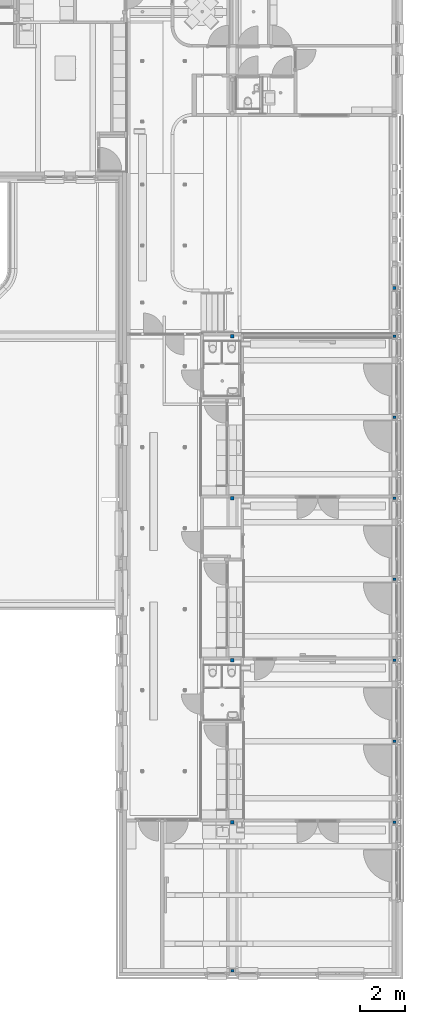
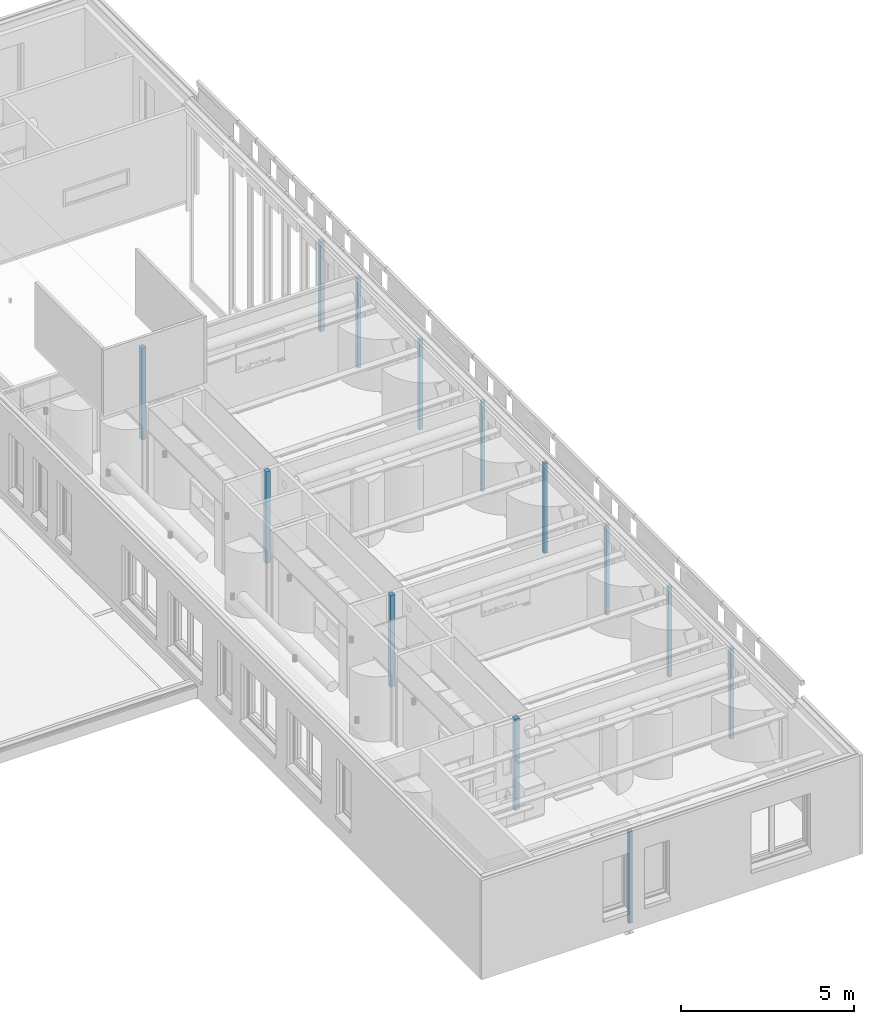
# One storey, part 1 of 128: 14 columns.
"""IFC2X3 building model written with IfcOpenShell, lengths in millimetres."""

from ifc_helpers import new_model, entity, si_unit, converted_unit, derived_unit, direction, frame, frame_2d, origin, place, context, subcontext, project, spatial, polyline, circle_curve, parameter, trimmed, segment, composite_curve, outline, extrude, source, transform, mapped, material, material_list, type_object, type_shapes, element, save


model = new_model("IFC2X3")

# Units and contexts
model_context = context("Model", 3, precision=0.01, world=origin(), true_north=direction((6.123031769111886e-17, 1.0)))
body_context = subcontext(model_context, "Body", "Model", "MODEL_VIEW")
ifc_project = project(units=[si_unit("LENGTHUNIT", "METRE", prefix="MILLI"), si_unit("AREAUNIT", "SQUARE_METRE"), si_unit("VOLUMEUNIT", "CUBIC_METRE"), converted_unit("PLANEANGLEUNIT", "DEGREE", entity("IfcRatioMeasure", 0.017453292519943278), si_unit("PLANEANGLEUNIT", "RADIAN"), dimensions=[0, 0, 0, 0, 0, 0, 0]), si_unit("MASSUNIT", "GRAM", prefix="KILO"), derived_unit("MASSDENSITYUNIT", [(si_unit("MASSUNIT", "GRAM", prefix="KILO"), 1), (si_unit("LENGTHUNIT", "METRE"), -3)]), derived_unit("IONCONCENTRATIONUNIT", [(si_unit("MASSUNIT", "GRAM", prefix="KILO"), 1), (si_unit("LENGTHUNIT", "METRE"), -3)]), derived_unit("MOMENTOFINERTIAUNIT", [(si_unit("LENGTHUNIT", "METRE"), 4)]), si_unit("TIMEUNIT", "SECOND"), si_unit("FREQUENCYUNIT", "HERTZ"), si_unit("THERMODYNAMICTEMPERATUREUNIT", "DEGREE_CELSIUS"), derived_unit("THERMALTRANSMITTANCEUNIT", [(si_unit("MASSUNIT", "GRAM", prefix="KILO"), 1), (si_unit("THERMODYNAMICTEMPERATUREUNIT", "KELVIN"), -1), (si_unit("TIMEUNIT", "SECOND"), -3)]), derived_unit("THERMALCONDUCTANCEUNIT", [(si_unit("MASSUNIT", "GRAM", prefix="KILO"), 1), (si_unit("THERMODYNAMICTEMPERATUREUNIT", "KELVIN"), -1), (si_unit("TIMEUNIT", "SECOND"), -3), (si_unit("LENGTHUNIT", "METRE"), 1)]), derived_unit("VOLUMETRICFLOWRATEUNIT", [(si_unit("LENGTHUNIT", "METRE"), 3), (si_unit("TIMEUNIT", "SECOND"), -1)]), derived_unit("MASSFLOWRATEUNIT", [(si_unit("MASSUNIT", "GRAM", prefix="KILO"), 1), (si_unit("TIMEUNIT", "SECOND"), -1)]), derived_unit("ROTATIONALFREQUENCYUNIT", [(si_unit("TIMEUNIT", "SECOND"), -1)]), si_unit("ELECTRICCURRENTUNIT", "AMPERE"), si_unit("ELECTRICVOLTAGEUNIT", "VOLT"), si_unit("POWERUNIT", "WATT"), si_unit("FORCEUNIT", "NEWTON", prefix="KILO"), si_unit("ILLUMINANCEUNIT", "LUX"), si_unit("LUMINOUSFLUXUNIT", "LUMEN"), si_unit("LUMINOUSINTENSITYUNIT", "CANDELA"), derived_unit("USERDEFINED", [(si_unit("MASSUNIT", "GRAM", prefix="KILO"), -1), (si_unit("LENGTHUNIT", "METRE"), -2), (si_unit("TIMEUNIT", "SECOND"), 3), (si_unit("LUMINOUSFLUXUNIT", "LUMEN"), 1)]), derived_unit("USERDEFINED", [(si_unit("MASSUNIT", "GRAM", prefix="KILO"), 1), (si_unit("TIMEUNIT", "SECOND"), -3), (si_unit("LENGTHUNIT", "METRE"), 3), (si_unit("ELECTRICCURRENTUNIT", "AMPERE"), -2)]), derived_unit("SOUNDPOWERUNIT", [(si_unit("MASSUNIT", "GRAM", prefix="KILO"), 1), (si_unit("TIMEUNIT", "SECOND"), -3), (si_unit("LENGTHUNIT", "METRE"), 2)]), derived_unit("SOUNDPRESSUREUNIT", [(si_unit("MASSUNIT", "GRAM", prefix="KILO"), 1), (si_unit("LENGTHUNIT", "METRE"), -1), (si_unit("TIMEUNIT", "SECOND"), -2)]), derived_unit("LINEARVELOCITYUNIT", [(si_unit("LENGTHUNIT", "METRE"), 1), (si_unit("TIMEUNIT", "SECOND"), -1)]), si_unit("PRESSUREUNIT", "PASCAL"), derived_unit("USERDEFINED", [(si_unit("MASSUNIT", "GRAM", prefix="KILO"), 1), (si_unit("LENGTHUNIT", "METRE"), -2), (si_unit("TIMEUNIT", "SECOND"), -2)]), derived_unit("LINEARFORCEUNIT", [(si_unit("MASSUNIT", "GRAM", prefix="KILO"), 1), (si_unit("TIMEUNIT", "SECOND"), -2)]), derived_unit("PLANARFORCEUNIT", [(si_unit("MASSUNIT", "GRAM", prefix="KILO"), 1), (si_unit("LENGTHUNIT", "METRE"), -1), (si_unit("TIMEUNIT", "SECOND"), -2)]), derived_unit("SPECIFICHEATCAPACITYUNIT", [(si_unit("THERMODYNAMICTEMPERATUREUNIT", "KELVIN"), -1), (si_unit("LENGTHUNIT", "METRE"), 2), (si_unit("TIMEUNIT", "SECOND"), -2)]), derived_unit("HEATINGVALUEUNIT", [(si_unit("LENGTHUNIT", "METRE"), 2), (si_unit("TIMEUNIT", "SECOND"), -2)]), derived_unit("VAPORPERMEABILITYUNIT", [(si_unit("LENGTHUNIT", "METRE"), -1), (si_unit("TIMEUNIT", "SECOND"), 1)]), derived_unit("DYNAMICVISCOSITYUNIT", [(si_unit("MASSUNIT", "GRAM", prefix="KILO"), 1), (si_unit("TIMEUNIT", "SECOND"), -1), (si_unit("LENGTHUNIT", "METRE"), -1)]), derived_unit("THERMALEXPANSIONCOEFFICIENTUNIT", [(si_unit("THERMODYNAMICTEMPERATUREUNIT", "KELVIN"), -1)]), derived_unit("MODULUSOFELASTICITYUNIT", [(si_unit("MASSUNIT", "GRAM", prefix="KILO"), 1), (si_unit("LENGTHUNIT", "METRE"), -1), (si_unit("TIMEUNIT", "SECOND"), -2)]), derived_unit("ISOTHERMALMOISTURECAPACITYUNIT", [(si_unit("LENGTHUNIT", "METRE"), 3), (si_unit("MASSUNIT", "GRAM", prefix="KILO"), -1)]), derived_unit("MOISTUREDIFFUSIVITYUNIT", [(si_unit("TIMEUNIT", "SECOND"), -1), (si_unit("LENGTHUNIT", "METRE"), 2)])], contexts=[model_context])

# Site, building, storey
site_placement = place(None, frame((0.0, 300.0, 0.0)))
site = spatial("IfcSite", under=ifc_project, at=site_placement, Name="<Kadastrale nummers>", CompositionType="ELEMENT")
building_placement = place(site_placement, origin())
building = spatial("IfcBuilding", under=site, at=building_placement, CompositionType="ELEMENT")
storey_placement = place(building_placement, frame((0.0, 0.0, 3560.0000331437)))
storey = spatial("IfcBuildingStorey", under=building, at=storey_placement, Name="01 eerste verdieping", CompositionType="ELEMENT", Elevation=3560.0000331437)

# Columns
ifc_material_1 = material(Name="f2_beton")
ifc_material_2 = material(Name="h2_staal")
ifc_material_list = material_list([ifc_material_1, ifc_material_2])
column_type_1 = type_object("IfcColumnType", Name="NLRS_28_SCO_TLB_kolom koker betongevuld_gen_ASN:kolom betongevuld K120x120x5", PredefinedType="COLUMN", material=ifc_material_list)
shared_shape_1 = source(origin(), body_context, "Body", "SweptSolid", [
    extrude(outline(composite_curve([segment(polyline([(-50.0, -55.0), (50.0, -55.0)]), True, "CONTINUOUS"), segment(trimmed(circle_curve(frame_2d((50.0, -50.0), x_axis=(-1.0, 0.0)), 4.999999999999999), [parameter(90.00000000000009)], [parameter(179.9999999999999)], True, "PARAMETER"), True, "CONTINUOUS"), segment(polyline([(55.0, -50.0), (55.0, 50.0)]), True, "CONTINUOUS"), segment(trimmed(circle_curve(frame_2d((50.0, 50.0), x_axis=(-1.0, 0.0)), 4.999999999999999), [parameter(180.0000000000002)], [parameter(269.9999999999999)], True, "PARAMETER"), True, "CONTINUOUS"), segment(polyline([(50.0, 55.0), (-50.0, 55.0)]), True, "CONTINUOUS"), segment(trimmed(circle_curve(frame_2d((-50.0, 50.0), x_axis=(-1.0, 0.0)), 4.999999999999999), [parameter(269.99999999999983)], [parameter(359.9999999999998)], True, "PARAMETER"), True, "CONTINUOUS"), segment(polyline([(-55.0, 50.0), (-55.0, -50.0)]), True, "CONTINUOUS"), segment(trimmed(circle_curve(frame_2d((-50.0, -50.0), x_axis=(-1.0, 0.0)), 4.999999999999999), [parameter(0.0)], [parameter(89.99999999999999)], True, "PARAMETER"), True, "CONTINUOUS")], self_intersect=False)), frame((0.0, 0.0, 3650.0000350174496), z_axis=(0.0, 0.0, 1.0), x_axis=(-1.0, 0.0, 0.0)), (0.0, 0.0, 1.0), 3180.00002051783),
    extrude(outline(composite_curve([segment(trimmed(circle_curve(frame_2d((51.0, 51.0), x_axis=(1.0, 0.0)), 9.0), [parameter(359.9999999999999)], [parameter(89.99999999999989)], True, "PARAMETER"), True, "CONTINUOUS"), segment(polyline([(51.0, 60.0), (-51.0, 60.0)]), True, "CONTINUOUS"), segment(trimmed(circle_curve(frame_2d((-51.0, 51.0), x_axis=(1.0, 0.0)), 9.0), [parameter(90.00000000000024)], [parameter(180.0000000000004)], True, "PARAMETER"), True, "CONTINUOUS"), segment(polyline([(-60.0, 51.0), (-60.0, -51.0)]), True, "CONTINUOUS"), segment(trimmed(circle_curve(frame_2d((-51.0, -51.0), x_axis=(1.0, 0.0)), 9.0), [parameter(179.99999999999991)], [parameter(269.9999999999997)], True, "PARAMETER"), True, "CONTINUOUS"), segment(polyline([(-51.0, -60.0), (51.0, -60.0)]), True, "CONTINUOUS"), segment(trimmed(circle_curve(frame_2d((51.0, -51.0), x_axis=(1.0, 0.0)), 9.0), [parameter(270.00000000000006)], [parameter(2.544443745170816e-13)], True, "PARAMETER"), True, "CONTINUOUS"), segment(polyline([(60.0, -51.0), (60.0, 51.0)]), True, "CONTINUOUS")], self_intersect=False), holes=[composite_curve([segment(polyline([(-51.0, 55.0), (51.0, 55.0)]), True, "CONTINUOUS"), segment(trimmed(circle_curve(frame_2d((51.0, 51.0), x_axis=(1.0, 0.0)), 4.0), [parameter(359.9999999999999)], [parameter(90.00000000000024)], True, "PARAMETER"), False, "CONTINUOUS"), segment(polyline([(55.0, 51.0), (55.0, -51.0)]), True, "CONTINUOUS"), segment(trimmed(circle_curve(frame_2d((51.0, -51.0), x_axis=(1.0, 0.0)), 4.0), [parameter(269.9999999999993)], [parameter(359.9999999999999)], True, "PARAMETER"), False, "CONTINUOUS"), segment(polyline([(51.0, -55.0), (-51.0, -55.0)]), True, "CONTINUOUS"), segment(trimmed(circle_curve(frame_2d((-51.0, -51.0), x_axis=(1.0, 0.0)), 4.0), [parameter(179.99999999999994)], [parameter(269.99999999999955)], True, "PARAMETER"), False, "CONTINUOUS"), segment(polyline([(-55.0, -51.0), (-55.0, 51.0)]), True, "CONTINUOUS"), segment(trimmed(circle_curve(frame_2d((-51.0, 51.0), x_axis=(1.0, 0.0)), 4.0), [parameter(89.99999999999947)], [parameter(179.9999999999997)], True, "PARAMETER"), False, "CONTINUOUS")], self_intersect=False)]), frame((0.0, 0.0, 3650.0000350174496), z_axis=(0.0, 0.0, 1.0), x_axis=(-1.0, 0.0, 0.0)), (0.0, 0.0, 1.0), 3180.00002051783),
])
type_shapes(column_type_1, [shared_shape_1])
for number, where, z_axis, x_axis, name in (
    (1, (48600.0, 23700.0, -3560.0000331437), (0.0, 0.0, 1.0), (0.0, -1.0, 0.0), "NLRS_28_SCO_TLB_kolom koker betongevuld_gen_ASN:kolom betongevuld K120x120x5"),
    (2, (48600.0, 16500.0, -3560.0000331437), (0.0, 0.0, 1.0), (0.0, -1.0, 0.0), "NLRS_28_SCO_TLB_kolom koker betongevuld_gen_ASN:kolom betongevuld K120x120x5"),
    (3, (48600.0, 9300.0, -3560.0000331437), (0.0, 0.0, 1.0), (0.0, -1.0, 0.0), "NLRS_28_SCO_TLB_kolom koker betongevuld_gen_ASN:kolom betongevuld K120x120x5"),
    (4, (48600.0, 12900.0, -3560.0000331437), (0.0, 0.0, 1.0), (0.0, -1.0, 0.0), "NLRS_28_SCO_TLB_kolom koker betongevuld_gen_ASN:kolom betongevuld K120x120x5"),
    (5, (48600.0, 30900.0, -3560.0000331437), (0.0, 0.0, 1.0), (0.0, -1.0, 0.0), "NLRS_28_SCO_TLB_kolom koker betongevuld_gen_ASN:kolom betongevuld K120x120x5"),
    (6, (48600.0, 27300.0, -3560.0000331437), (0.0, 0.0, 1.0), (0.0, -1.0, 0.0), "NLRS_28_SCO_TLB_kolom koker betongevuld_gen_ASN:kolom betongevuld K120x120x5"),
    (7, (48600.0, 20100.0, -3560.0000331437), (0.0, 0.0, 1.0), (0.0, -1.0, 0.0), "NLRS_28_SCO_TLB_kolom koker betongevuld_gen_ASN:kolom betongevuld K120x120x5"),
):
    element("IfcColumn", number, at=place(storey_placement, frame(where, z_axis=z_axis, x_axis=x_axis)), inside=storey, type_object=column_type_1, material=ifc_material_list, Name=name, ObjectType="NLRS_28_SCO_TLB_kolom koker betongevuld_gen_ASN:kolom betongevuld K120x120x5", context=body_context, shape_type="MappedRepresentation", body=[
        mapped(shared_shape_1, transform((0.0, 0.0, 0.0), scale=1.0)),
    ])
column_type_2 = type_object("IfcColumnType", Name="NLRS_28_SCO_TLB_kolom koker betongevuld_gen_ASN:kolom betongevuld K150x150x6.3", PredefinedType="COLUMN", material=ifc_material_list)
shared_shape_2 = source(origin(), body_context, "Body", "SweptSolid", [
    extrude(outline(composite_curve([segment(polyline([(-63.70000000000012, -68.69999999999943), (63.699999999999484, -68.69999999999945)]), True, "CONTINUOUS"), segment(trimmed(circle_curve(frame_2d((63.69999999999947, -63.69999999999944), x_axis=(-1.0, 0.0)), 4.999999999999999), [parameter(90.00000000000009)], [parameter(179.9999999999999)], True, "PARAMETER"), True, "CONTINUOUS"), segment(polyline([(68.69999999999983, -63.69999999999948), (68.7000000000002, 63.69999999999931)]), True, "CONTINUOUS"), segment(trimmed(circle_curve(frame_2d((63.70000000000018, 63.69999999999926), x_axis=(-1.0, 0.0)), 4.999999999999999), [parameter(180.0000000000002)], [parameter(269.9999999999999)], True, "PARAMETER"), True, "CONTINUOUS"), segment(polyline([(63.70000000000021, 68.69999999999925), (-63.6999999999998, 68.69999999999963)]), True, "CONTINUOUS"), segment(trimmed(circle_curve(frame_2d((-63.69999999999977, 63.699999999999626), x_axis=(-1.0, 0.0)), 4.999999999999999), [parameter(270.0)], [parameter(359.9999999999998)], True, "PARAMETER"), True, "CONTINUOUS"), segment(polyline([(-68.69999999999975, 63.69999999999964), (-68.70000000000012, -63.69999999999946)]), True, "CONTINUOUS"), segment(trimmed(circle_curve(frame_2d((-63.70000000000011, -63.69999999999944), x_axis=(-1.0, 0.0)), 4.999999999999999), [parameter(0.0)], [parameter(90.00000000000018)], True, "PARAMETER"), True, "CONTINUOUS")], self_intersect=False)), frame((0.0, 0.0, 3650.0000350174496), z_axis=(0.0, 0.0, 1.0), x_axis=(-1.0, 0.0, 0.0)), (0.0, 0.0, 1.0), 3180.00002051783),
    extrude(outline(composite_curve([segment(trimmed(circle_curve(frame_2d((62.0, 62.0), x_axis=(1.0, 0.0)), 13.000000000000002), [parameter(359.9999999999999)], [parameter(89.99999999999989)], True, "PARAMETER"), True, "CONTINUOUS"), segment(polyline([(62.0, 75.0), (-62.0, 75.0)]), True, "CONTINUOUS"), segment(trimmed(circle_curve(frame_2d((-62.0, 62.0), x_axis=(1.0, 0.0)), 13.000000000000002), [parameter(90.00000000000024)], [parameter(180.0000000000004)], True, "PARAMETER"), True, "CONTINUOUS"), segment(polyline([(-75.0, 62.0), (-75.0, -62.0)]), True, "CONTINUOUS"), segment(trimmed(circle_curve(frame_2d((-62.0, -62.0), x_axis=(1.0, 0.0)), 13.000000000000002), [parameter(180.0)], [parameter(269.9999999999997)], True, "PARAMETER"), True, "CONTINUOUS"), segment(polyline([(-62.0, -75.0), (62.0, -75.0)]), True, "CONTINUOUS"), segment(trimmed(circle_curve(frame_2d((62.0, -62.0), x_axis=(1.0, 0.0)), 13.000000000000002), [parameter(270.00000000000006)], [parameter(3.053332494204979e-13)], True, "PARAMETER"), True, "CONTINUOUS"), segment(polyline([(75.0, -62.0), (75.0, 62.0)]), True, "CONTINUOUS")], self_intersect=False), holes=[composite_curve([segment(polyline([(-62.0, 68.69999999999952), (62.0, 68.69999999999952)]), True, "CONTINUOUS"), segment(trimmed(circle_curve(frame_2d((62.0, 62.0), x_axis=(1.0, 0.0)), 6.700000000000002), [parameter(359.99999999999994)], [parameter(90.00000000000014)], True, "PARAMETER"), False, "CONTINUOUS"), segment(polyline([(68.69999999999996, 62.0), (68.69999999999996, -62.0)]), True, "CONTINUOUS"), segment(trimmed(circle_curve(frame_2d((62.0, -62.0), x_axis=(1.0, 0.0)), 6.700000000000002), [parameter(269.9999999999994)], [parameter(359.9999999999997)], True, "PARAMETER"), False, "CONTINUOUS"), segment(polyline([(62.0, -68.69999999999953), (-62.0, -68.69999999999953)]), True, "CONTINUOUS"), segment(trimmed(circle_curve(frame_2d((-62.0, -62.0), x_axis=(1.0, 0.0)), 6.700000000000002), [parameter(180.00000000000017)], [parameter(269.9999999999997)], True, "PARAMETER"), False, "CONTINUOUS"), segment(polyline([(-68.69999999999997, -62.0), (-68.69999999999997, 62.0)]), True, "CONTINUOUS"), segment(trimmed(circle_curve(frame_2d((-62.0, 62.0), x_axis=(1.0, 0.0)), 6.700000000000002), [parameter(89.99999999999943)], [parameter(179.99999999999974)], True, "PARAMETER"), False, "CONTINUOUS")], self_intersect=False)]), frame((0.0, 0.0, 3650.0000350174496), z_axis=(0.0, 0.0, 1.0), x_axis=(-1.0, 0.0, 0.0)), (0.0, 0.0, 1.0), 3180.00002051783),
])
type_shapes(column_type_2, [shared_shape_2])
column_1_placement = place(storey_placement, frame((48600.0, 33040.0, -3560.0000331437), z_axis=(0.0, 0.0, 1.0), x_axis=(0.0, -1.0, 0.0)))
element("IfcColumn", 8, at=column_1_placement, inside=storey, type_object=column_type_2, material=ifc_material_list, Name="NLRS_28_SCO_TLB_kolom koker betongevuld_gen_ASN:kolom betongevuld K150x150x6.3", ObjectType="NLRS_28_SCO_TLB_kolom koker betongevuld_gen_ASN:kolom betongevuld K150x150x6.3", context=body_context, shape_type="MappedRepresentation", body=[
    mapped(shared_shape_2, transform((0.0, 0.0, 0.0), scale=1.0)),
])
column_type_3 = type_object("IfcColumnType", Name="NLRS_28_SCO_TLB_kolom koker betongevuld_gen_ASN:kolom betongevuld K120x120x6.3", PredefinedType="COLUMN", material=ifc_material_list)
shared_shape_3 = source(origin(), body_context, "Body", "SweptSolid", [
    extrude(outline(composite_curve([segment(polyline([(-48.700000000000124, -53.69999999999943), (48.69999999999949, -53.69999999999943)]), True, "CONTINUOUS"), segment(trimmed(circle_curve(frame_2d((48.69999999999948, -48.69999999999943), x_axis=(-1.0, 0.0)), 4.999999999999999), [parameter(90.00000000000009)], [parameter(179.9999999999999)], True, "PARAMETER"), True, "CONTINUOUS"), segment(polyline([(53.699999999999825, -48.69999999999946), (53.70000000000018, 48.699999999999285)]), True, "CONTINUOUS"), segment(trimmed(circle_curve(frame_2d((48.70000000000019, 48.69999999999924), x_axis=(-1.0, 0.0)), 4.999999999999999), [parameter(180.0000000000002)], [parameter(269.9999999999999)], True, "PARAMETER"), True, "CONTINUOUS"), segment(polyline([(48.700000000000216, 53.699999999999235), (-48.699999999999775, 53.69999999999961)]), True, "CONTINUOUS"), segment(trimmed(circle_curve(frame_2d((-48.69999999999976, 48.69999999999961), x_axis=(-1.0, 0.0)), 4.999999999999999), [parameter(269.9999999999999)], [parameter(0.0)], True, "PARAMETER"), True, "CONTINUOUS"), segment(polyline([(-53.69999999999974, 48.69999999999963), (-53.700000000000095, -48.69999999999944)]), True, "CONTINUOUS"), segment(trimmed(circle_curve(frame_2d((-48.7000000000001, -48.69999999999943), x_axis=(-1.0, 0.0)), 4.999999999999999), [parameter(0.0)], [parameter(90.00000000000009)], True, "PARAMETER"), True, "CONTINUOUS")], self_intersect=False)), frame((0.0, 0.0, 3650.0000350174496), z_axis=(0.0, 0.0, 1.0), x_axis=(-1.0, 0.0, 0.0)), (0.0, 0.0, 1.0), 3240.000000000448),
    extrude(outline(composite_curve([segment(trimmed(circle_curve(frame_2d((51.0, 51.0), x_axis=(1.0, 0.0)), 9.0), [parameter(359.9999999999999)], [parameter(89.99999999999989)], True, "PARAMETER"), True, "CONTINUOUS"), segment(polyline([(51.0, 60.0), (-51.0, 60.0)]), True, "CONTINUOUS"), segment(trimmed(circle_curve(frame_2d((-51.0, 51.0), x_axis=(1.0, 0.0)), 9.0), [parameter(90.00000000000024)], [parameter(180.0000000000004)], True, "PARAMETER"), True, "CONTINUOUS"), segment(polyline([(-60.0, 51.0), (-60.0, -51.0)]), True, "CONTINUOUS"), segment(trimmed(circle_curve(frame_2d((-51.0, -51.0), x_axis=(1.0, 0.0)), 9.0), [parameter(179.99999999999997)], [parameter(269.9999999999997)], True, "PARAMETER"), True, "CONTINUOUS"), segment(polyline([(-51.0, -60.0), (51.0, -60.0)]), True, "CONTINUOUS"), segment(trimmed(circle_curve(frame_2d((51.0, -51.0), x_axis=(1.0, 0.0)), 9.0), [parameter(270.00000000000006)], [parameter(3.053332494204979e-13)], True, "PARAMETER"), True, "CONTINUOUS"), segment(polyline([(60.0, -51.0), (60.0, 51.0)]), True, "CONTINUOUS")], self_intersect=False), holes=[composite_curve([segment(polyline([(-51.0, 53.699999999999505), (51.0, 53.699999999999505)]), True, "CONTINUOUS"), segment(trimmed(circle_curve(frame_2d((51.0, 51.0), x_axis=(1.0, 0.0)), 2.7000000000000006), [parameter(359.9999999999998)], [parameter(90.00000000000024)], True, "PARAMETER"), False, "CONTINUOUS"), segment(polyline([(53.69999999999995, 51.0), (53.69999999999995, -51.0)]), True, "CONTINUOUS"), segment(trimmed(circle_curve(frame_2d((51.0, -51.0), x_axis=(1.0, 0.0)), 2.7000000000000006), [parameter(269.9999999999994)], [parameter(359.9999999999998)], True, "PARAMETER"), False, "CONTINUOUS"), segment(polyline([(51.0, -53.69999999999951), (-51.0, -53.69999999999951)]), True, "CONTINUOUS"), segment(trimmed(circle_curve(frame_2d((-51.0, -51.0), x_axis=(1.0, 0.0)), 2.7000000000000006), [parameter(180.0)], [parameter(269.9999999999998)], True, "PARAMETER"), False, "CONTINUOUS"), segment(polyline([(-53.699999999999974, -51.0), (-53.699999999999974, 51.0)]), True, "CONTINUOUS"), segment(trimmed(circle_curve(frame_2d((-51.0, 51.0), x_axis=(1.0, 0.0)), 2.7000000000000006), [parameter(89.99999999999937)], [parameter(179.99999999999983)], True, "PARAMETER"), False, "CONTINUOUS")], self_intersect=False)]), frame((0.0, 0.0, 3650.0000350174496), z_axis=(0.0, 0.0, 1.0), x_axis=(-1.0, 0.0, 0.0)), (0.0, 0.0, 1.0), 3240.000000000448),
])
type_shapes(column_type_3, [shared_shape_3])
column_2_placement = place(storey_placement, frame((41400.0, 2700.0, -3560.0000331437), z_axis=(0.0, 0.0, 1.0), x_axis=(0.0, -1.0, 0.0)))
element("IfcColumn", 9, at=column_2_placement, inside=storey, type_object=column_type_3, material=ifc_material_list, Name="NLRS_28_SCO_TLB_kolom koker betongevuld_gen_ASN:kolom betongevuld K120x120x6.3", ObjectType="NLRS_28_SCO_TLB_kolom koker betongevuld_gen_ASN:kolom betongevuld K120x120x6.3", context=body_context, shape_type="MappedRepresentation", body=[
    mapped(shared_shape_3, transform((0.0, 0.0, 0.0), scale=1.0)),
])
column_type_4 = type_object("IfcColumnType", Name="NLRS_28_SCO_TLB_kolom koker betongevuld_gen_ASN:kolom betongevuld K160x160x6.3", PredefinedType="COLUMN", material=ifc_material_list)
shared_shape_4 = source(origin(), body_context, "Body", "SweptSolid", [
    extrude(outline(composite_curve([segment(polyline([(-68.70000000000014, -73.69999999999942), (68.6999999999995, -73.69999999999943)]), True, "CONTINUOUS"), segment(trimmed(circle_curve(frame_2d((68.69999999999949, -68.69999999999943), x_axis=(-1.0, 0.0)), 4.999999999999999), [parameter(90.00000000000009)], [parameter(179.9999999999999)], True, "PARAMETER"), True, "CONTINUOUS"), segment(polyline([(73.69999999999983, -68.69999999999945), (73.7000000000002, 68.69999999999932)]), True, "CONTINUOUS"), segment(trimmed(circle_curve(frame_2d((68.70000000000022, 68.69999999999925), x_axis=(-1.0, 0.0)), 4.999999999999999), [parameter(180.0000000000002)], [parameter(269.9999999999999)], True, "PARAMETER"), True, "CONTINUOUS"), segment(polyline([(68.70000000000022, 73.69999999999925), (-68.69999999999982, 73.69999999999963)]), True, "CONTINUOUS"), segment(trimmed(circle_curve(frame_2d((-68.69999999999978, 68.69999999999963), x_axis=(-1.0, 0.0)), 4.999999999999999), [parameter(269.9999999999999)], [parameter(0.0)], True, "PARAMETER"), True, "CONTINUOUS"), segment(polyline([(-73.69999999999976, 68.69999999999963), (-73.70000000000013, -68.69999999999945)]), True, "CONTINUOUS"), segment(trimmed(circle_curve(frame_2d((-68.70000000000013, -68.69999999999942), x_axis=(-1.0, 0.0)), 4.999999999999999), [parameter(0.0)], [parameter(90.00000000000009)], True, "PARAMETER"), True, "CONTINUOUS")], self_intersect=False)), frame((0.0, 0.0, 3650.0000350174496), z_axis=(0.0, 0.0, 1.0), x_axis=(-1.0, 0.0, 0.0)), (0.0, 0.0, 1.0), 3240.000000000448),
    extrude(outline(composite_curve([segment(trimmed(circle_curve(frame_2d((67.0, 67.0), x_axis=(1.0, 0.0)), 13.000000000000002), [parameter(359.9999999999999)], [parameter(89.99999999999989)], True, "PARAMETER"), True, "CONTINUOUS"), segment(polyline([(67.0, 80.0), (-67.0, 80.0)]), True, "CONTINUOUS"), segment(trimmed(circle_curve(frame_2d((-67.0, 67.0), x_axis=(1.0, 0.0)), 13.000000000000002), [parameter(90.00000000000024)], [parameter(180.0000000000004)], True, "PARAMETER"), True, "CONTINUOUS"), segment(polyline([(-80.0, 67.0), (-80.0, -67.0)]), True, "CONTINUOUS"), segment(trimmed(circle_curve(frame_2d((-67.0, -67.0), x_axis=(1.0, 0.0)), 13.000000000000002), [parameter(179.99999999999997)], [parameter(269.9999999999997)], True, "PARAMETER"), True, "CONTINUOUS"), segment(polyline([(-67.0, -80.0), (67.0, -80.0)]), True, "CONTINUOUS"), segment(trimmed(circle_curve(frame_2d((67.0, -67.0), x_axis=(1.0, 0.0)), 13.000000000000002), [parameter(270.00000000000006)], [parameter(3.053332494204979e-13)], True, "PARAMETER"), True, "CONTINUOUS"), segment(polyline([(80.0, -67.0), (80.0, 67.0)]), True, "CONTINUOUS")], self_intersect=False), holes=[composite_curve([segment(polyline([(-67.0, 73.69999999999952), (67.0, 73.69999999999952)]), True, "CONTINUOUS"), segment(trimmed(circle_curve(frame_2d((67.0, 67.0), x_axis=(1.0, 0.0)), 6.700000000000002), [parameter(359.99999999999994)], [parameter(90.00000000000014)], True, "PARAMETER"), False, "CONTINUOUS"), segment(polyline([(73.69999999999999, 67.0), (73.69999999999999, -67.0)]), True, "CONTINUOUS"), segment(trimmed(circle_curve(frame_2d((67.0, -67.0), x_axis=(1.0, 0.0)), 6.700000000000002), [parameter(269.9999999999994)], [parameter(359.99999999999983)], True, "PARAMETER"), False, "CONTINUOUS"), segment(polyline([(67.0, -73.69999999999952), (-67.0, -73.69999999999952)]), True, "CONTINUOUS"), segment(trimmed(circle_curve(frame_2d((-67.0, -67.0), x_axis=(1.0, 0.0)), 6.700000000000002), [parameter(180.0000000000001)], [parameter(269.9999999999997)], True, "PARAMETER"), False, "CONTINUOUS"), segment(polyline([(-73.69999999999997, -67.0), (-73.69999999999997, 67.0)]), True, "CONTINUOUS"), segment(trimmed(circle_curve(frame_2d((-67.0, 67.0), x_axis=(1.0, 0.0)), 6.700000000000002), [parameter(89.99999999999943)], [parameter(179.99999999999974)], True, "PARAMETER"), False, "CONTINUOUS")], self_intersect=False)]), frame((0.0, 0.0, 3650.0000350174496), z_axis=(0.0, 0.0, 1.0), x_axis=(-1.0, 0.0, 0.0)), (0.0, 0.0, 1.0), 3240.000000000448),
])
type_shapes(column_type_4, [shared_shape_4])
for number, where, z_axis, x_axis, name in (
    (10, (41400.0, 9300.0, -3560.0000331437), (0.0, 0.0, 1.0), (0.0, -1.0, 0.0), "NLRS_28_SCO_TLB_kolom koker betongevuld_gen_ASN:kolom betongevuld K160x160x6.3"),
    (11, (41400.0, 16500.0, -3560.0000331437), (0.0, 0.0, 1.0), (0.0, -1.0, 0.0), "NLRS_28_SCO_TLB_kolom koker betongevuld_gen_ASN:kolom betongevuld K160x160x6.3"),
    (12, (41400.0, 23700.0, -3560.0000331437), (0.0, 0.0, 1.0), (0.0, -1.0, 0.0), "NLRS_28_SCO_TLB_kolom koker betongevuld_gen_ASN:kolom betongevuld K160x160x6.3"),
    (13, (41400.0, 30900.0, -3560.0000331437), (0.0, 0.0, 1.0), (0.0, -1.0, 0.0), "NLRS_28_SCO_TLB_kolom koker betongevuld_gen_ASN:kolom betongevuld K160x160x6.3"),
):
    element("IfcColumn", number, at=place(storey_placement, frame(where, z_axis=z_axis, x_axis=x_axis)), inside=storey, type_object=column_type_4, material=ifc_material_list, Name=name, ObjectType="NLRS_28_SCO_TLB_kolom koker betongevuld_gen_ASN:kolom betongevuld K160x160x6.3", context=body_context, shape_type="MappedRepresentation", body=[
        mapped(shared_shape_4, transform((0.0, 0.0, 0.0), scale=1.0)),
    ])
column_type_5 = type_object("IfcColumnType", Name="NLRS_28_SCO_TLB_kolom koker betongevuld_gen_ASN:kolom betongevuld K120x120x8", PredefinedType="COLUMN", material=ifc_material_list)
shared_shape_5 = source(origin(), body_context, "Body", "SweptSolid", [
    extrude(outline(composite_curve([segment(polyline([(-47.0, -52.0), (47.0, -52.0)]), True, "CONTINUOUS"), segment(trimmed(circle_curve(frame_2d((47.0, -47.0), x_axis=(-1.0, 0.0)), 4.999999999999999), [parameter(90.00000000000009)], [parameter(179.9999999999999)], True, "PARAMETER"), True, "CONTINUOUS"), segment(polyline([(52.0, -47.0), (52.0, 47.0)]), True, "CONTINUOUS"), segment(trimmed(circle_curve(frame_2d((47.0, 47.0), x_axis=(-1.0, 0.0)), 4.999999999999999), [parameter(180.0000000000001)], [parameter(269.9999999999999)], True, "PARAMETER"), True, "CONTINUOUS"), segment(polyline([(47.0, 52.0), (-47.0, 52.0)]), True, "CONTINUOUS"), segment(trimmed(circle_curve(frame_2d((-47.0, 47.0), x_axis=(-1.0, 0.0)), 4.999999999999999), [parameter(269.9999999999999)], [parameter(359.9999999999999)], True, "PARAMETER"), True, "CONTINUOUS"), segment(polyline([(-52.0, 47.0), (-52.0, -47.0)]), True, "CONTINUOUS"), segment(trimmed(circle_curve(frame_2d((-47.0, -47.0), x_axis=(-1.0, 0.0)), 4.999999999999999), [parameter(0.0)], [parameter(90.00000000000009)], True, "PARAMETER"), True, "CONTINUOUS")], self_intersect=False)), frame((0.0, 0.0, 3650.0000350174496), z_axis=(0.0, 0.0, 1.0), x_axis=(-1.0, 0.0, 0.0)), (0.0, 0.0, 1.0), 3180.00002051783),
    extrude(outline(composite_curve([segment(trimmed(circle_curve(frame_2d((51.0, 51.0), x_axis=(1.0, 0.0)), 9.0), [parameter(359.9999999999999)], [parameter(89.99999999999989)], True, "PARAMETER"), True, "CONTINUOUS"), segment(polyline([(51.0, 60.0), (-51.0, 60.0)]), True, "CONTINUOUS"), segment(trimmed(circle_curve(frame_2d((-51.0, 51.0), x_axis=(1.0, 0.0)), 9.0), [parameter(90.00000000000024)], [parameter(180.0000000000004)], True, "PARAMETER"), True, "CONTINUOUS"), segment(polyline([(-60.0, 51.0), (-60.0, -51.0)]), True, "CONTINUOUS"), segment(trimmed(circle_curve(frame_2d((-51.0, -51.0), x_axis=(1.0, 0.0)), 9.0), [parameter(179.99999999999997)], [parameter(269.9999999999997)], True, "PARAMETER"), True, "CONTINUOUS"), segment(polyline([(-51.0, -60.0), (51.0, -60.0)]), True, "CONTINUOUS"), segment(trimmed(circle_curve(frame_2d((51.0, -51.0), x_axis=(1.0, 0.0)), 9.0), [parameter(270.00000000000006)], [parameter(3.053332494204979e-13)], True, "PARAMETER"), True, "CONTINUOUS"), segment(polyline([(60.0, -51.0), (60.0, 51.0)]), True, "CONTINUOUS")], self_intersect=False), holes=[composite_curve([segment(polyline([(-51.0, 52.0), (51.0, 52.0)]), True, "CONTINUOUS"), segment(trimmed(circle_curve(frame_2d((51.0, 51.0), x_axis=(1.0, 0.0)), 1.0), [parameter(0.0)], [parameter(90.00000000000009)], True, "PARAMETER"), False, "CONTINUOUS"), segment(polyline([(52.0, 51.0), (52.0, -51.0)]), True, "CONTINUOUS"), segment(trimmed(circle_curve(frame_2d((51.0, -51.0), x_axis=(1.0, 0.0)), 1.0), [parameter(269.99999999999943)], [parameter(0.0)], True, "PARAMETER"), False, "CONTINUOUS"), segment(polyline([(51.0, -52.0), (-51.0, -52.0)]), True, "CONTINUOUS"), segment(trimmed(circle_curve(frame_2d((-51.0, -51.0), x_axis=(1.0, 0.0)), 1.0), [parameter(179.9999999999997)], [parameter(269.99999999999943)], True, "PARAMETER"), False, "CONTINUOUS"), segment(polyline([(-52.0, -51.0), (-52.0, 51.0)]), True, "CONTINUOUS"), segment(trimmed(circle_curve(frame_2d((-51.0, 51.0), x_axis=(1.0, 0.0)), 1.0), [parameter(89.99999999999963)], [parameter(179.9999999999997)], True, "PARAMETER"), False, "CONTINUOUS")], self_intersect=False)]), frame((0.0, 0.0, 3650.0000350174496), z_axis=(0.0, 0.0, 1.0), x_axis=(-1.0, 0.0, 0.0)), (0.0, 0.0, 1.0), 3180.00002051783),
])
type_shapes(column_type_5, [shared_shape_5])
column_3_placement = place(storey_placement, frame((48600.0, 20100.0, -3560.0000331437), z_axis=(0.0, 0.0, 1.0), x_axis=(0.0, -1.0, 0.0)))
element("IfcColumn", 14, at=column_3_placement, inside=storey, type_object=column_type_5, material=ifc_material_list, Name="NLRS_28_SCO_TLB_kolom koker betongevuld_gen_ASN:kolom betongevuld K120x120x8", ObjectType="NLRS_28_SCO_TLB_kolom koker betongevuld_gen_ASN:kolom betongevuld K120x120x8", context=body_context, shape_type="MappedRepresentation", body=[
    mapped(shared_shape_5, transform((0.0, 0.0, 0.0), scale=1.0)),
])

save(model, "model.ifc")
